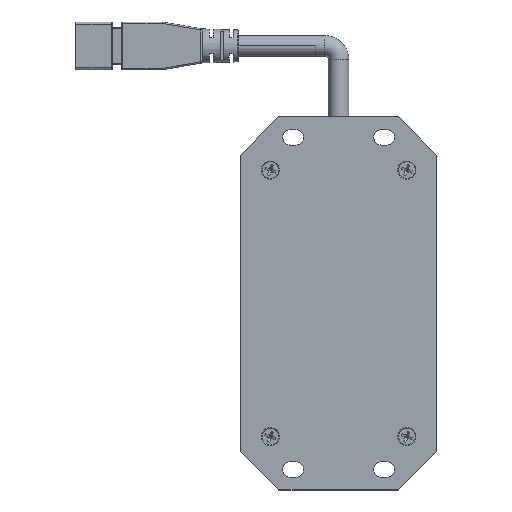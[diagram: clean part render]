
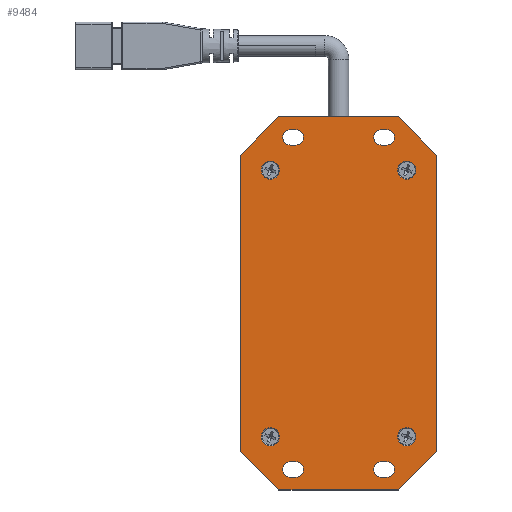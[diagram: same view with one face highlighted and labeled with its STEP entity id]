
A CAD part, top view. The second image highlights one B-rep face of the part: STEP entity #9484.
In plain terms, the highlighted planar face has unit normal (0, 0, 1).
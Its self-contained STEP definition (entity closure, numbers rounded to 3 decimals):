
#341=CARTESIAN_POINT('',(-15.,-29.3,3.));
#342=DIRECTION('',(0.,0.,-1.));
#343=DIRECTION('',(1.,0.,0.));
#344=AXIS2_PLACEMENT_3D('',#341,#342,#343);
#346=CARTESIAN_POINT('',(-15.,-29.3,3.));
#347=DIRECTION('',(0.,0.,-1.));
#348=DIRECTION('',(-1.,0.,0.));
#349=AXIS2_PLACEMENT_3D('',#346,#347,#348);
#351=CARTESIAN_POINT('',(15.,-29.3,3.));
#352=DIRECTION('',(0.,0.,-1.));
#353=DIRECTION('',(1.,0.,0.));
#354=AXIS2_PLACEMENT_3D('',#351,#352,#353);
#356=CARTESIAN_POINT('',(15.,-29.3,3.));
#357=DIRECTION('',(0.,0.,-1.));
#358=DIRECTION('',(-1.,0.,0.));
#359=AXIS2_PLACEMENT_3D('',#356,#357,#358);
#361=CARTESIAN_POINT('',(-15.,29.3,3.));
#362=DIRECTION('',(0.,0.,-1.));
#363=DIRECTION('',(-1.,0.,0.));
#364=AXIS2_PLACEMENT_3D('',#361,#362,#363);
#366=CARTESIAN_POINT('',(-15.,29.3,3.));
#367=DIRECTION('',(0.,0.,-1.));
#368=DIRECTION('',(1.,0.,0.));
#369=AXIS2_PLACEMENT_3D('',#366,#367,#368);
#371=CARTESIAN_POINT('',(15.,29.3,3.));
#372=DIRECTION('',(0.,0.,-1.));
#373=DIRECTION('',(-1.,0.,0.));
#374=AXIS2_PLACEMENT_3D('',#371,#372,#373);
#376=CARTESIAN_POINT('',(15.,29.3,3.));
#377=DIRECTION('',(0.,0.,-1.));
#378=DIRECTION('',(1.,0.,0.));
#379=AXIS2_PLACEMENT_3D('',#376,#377,#378);
#381=CARTESIAN_POINT('',(-9.4,36.5,3.));
#382=DIRECTION('',(0.,0.,-1.));
#383=DIRECTION('',(0.,1.,0.));
#384=AXIS2_PLACEMENT_3D('',#381,#382,#383);
#386=CARTESIAN_POINT('',(-10.6,36.5,3.));
#387=DIRECTION('',(0.,0.,-1.));
#388=DIRECTION('',(0.,-1.,0.));
#389=AXIS2_PLACEMENT_3D('',#386,#387,#388);
#391=CARTESIAN_POINT('',(10.6,36.5,3.));
#392=DIRECTION('',(0.,0.,-1.));
#393=DIRECTION('',(0.,1.,0.));
#394=AXIS2_PLACEMENT_3D('',#391,#392,#393);
#396=CARTESIAN_POINT('',(9.4,36.5,3.));
#397=DIRECTION('',(0.,0.,-1.));
#398=DIRECTION('',(0.,-1.,0.));
#399=AXIS2_PLACEMENT_3D('',#396,#397,#398);
#401=CARTESIAN_POINT('',(-9.4,-36.5,3.));
#402=DIRECTION('',(0.,0.,-1.));
#403=DIRECTION('',(0.,1.,0.));
#404=AXIS2_PLACEMENT_3D('',#401,#402,#403);
#406=CARTESIAN_POINT('',(-10.6,-36.5,3.));
#407=DIRECTION('',(0.,0.,-1.));
#408=DIRECTION('',(0.,-1.,0.));
#409=AXIS2_PLACEMENT_3D('',#406,#407,#408);
#411=CARTESIAN_POINT('',(10.6,-36.5,3.));
#412=DIRECTION('',(0.,0.,-1.));
#413=DIRECTION('',(0.,1.,0.));
#414=AXIS2_PLACEMENT_3D('',#411,#412,#413);
#416=CARTESIAN_POINT('',(9.4,-36.5,3.));
#417=DIRECTION('',(0.,0.,-1.));
#418=DIRECTION('',(0.,-1.,0.));
#419=AXIS2_PLACEMENT_3D('',#416,#417,#418);
#421=DIRECTION('',(-1.,0.,0.));
#422=VECTOR('',#421,26.2);
#423=CARTESIAN_POINT('',(13.1,41.,3.));
#424=LINE('',#423,#422);
#425=DIRECTION('',(-0.707,0.707,0.));
#426=VECTOR('',#425,11.879);
#427=CARTESIAN_POINT('',(21.5,32.6,3.));
#428=LINE('',#427,#426);
#429=DIRECTION('',(0.,1.,0.));
#430=VECTOR('',#429,65.2);
#431=CARTESIAN_POINT('',(21.5,-32.6,3.));
#432=LINE('',#431,#430);
#433=DIRECTION('',(0.707,0.707,0.));
#434=VECTOR('',#433,11.879);
#435=CARTESIAN_POINT('',(13.1,-41.,3.));
#436=LINE('',#435,#434);
#437=DIRECTION('',(1.,0.,0.));
#438=VECTOR('',#437,26.2);
#439=CARTESIAN_POINT('',(-13.1,-41.,3.));
#440=LINE('',#439,#438);
#441=DIRECTION('',(0.707,-0.707,0.));
#442=VECTOR('',#441,11.879);
#443=CARTESIAN_POINT('',(-21.5,-32.6,3.));
#444=LINE('',#443,#442);
#445=DIRECTION('',(0.,-1.,0.));
#446=VECTOR('',#445,65.2);
#447=CARTESIAN_POINT('',(-21.5,32.6,3.));
#448=LINE('',#447,#446);
#449=DIRECTION('',(-0.707,-0.707,0.));
#450=VECTOR('',#449,11.879);
#451=CARTESIAN_POINT('',(-13.1,41.,3.));
#452=LINE('',#451,#450);
#1477=DIRECTION('',(1.,0.,0.));
#1478=VECTOR('',#1477,1.2);
#1479=CARTESIAN_POINT('',(-10.6,34.8,3.));
#1480=LINE('',#1479,#1478);
#1599=DIRECTION('',(-1.,0.,0.));
#1600=VECTOR('',#1599,1.2);
#1601=CARTESIAN_POINT('',(-9.4,38.2,3.));
#1602=LINE('',#1601,#1600);
#1623=DIRECTION('',(-1.,0.,0.));
#1624=VECTOR('',#1623,1.2);
#1625=CARTESIAN_POINT('',(10.6,38.2,3.));
#1626=LINE('',#1625,#1624);
#1643=DIRECTION('',(1.,0.,0.));
#1644=VECTOR('',#1643,1.2);
#1645=CARTESIAN_POINT('',(9.4,34.8,3.));
#1646=LINE('',#1645,#1644);
#1659=DIRECTION('',(-1.,0.,0.));
#1660=VECTOR('',#1659,1.2);
#1661=CARTESIAN_POINT('',(-9.4,-34.8,3.));
#1662=LINE('',#1661,#1660);
#1675=DIRECTION('',(1.,0.,0.));
#1676=VECTOR('',#1675,1.2);
#1677=CARTESIAN_POINT('',(-10.6,-38.2,3.));
#1678=LINE('',#1677,#1676);
#1691=DIRECTION('',(-1.,0.,0.));
#1692=VECTOR('',#1691,1.2);
#1693=CARTESIAN_POINT('',(10.6,-34.8,3.));
#1694=LINE('',#1693,#1692);
#1707=DIRECTION('',(1.,0.,0.));
#1708=VECTOR('',#1707,1.2);
#1709=CARTESIAN_POINT('',(9.4,-38.2,3.));
#1710=LINE('',#1709,#1708);
#7037=CARTESIAN_POINT('',(21.5,-32.6,3.));
#7038=VERTEX_POINT('',#7037);
#7039=CARTESIAN_POINT('',(21.5,32.6,3.));
#7040=VERTEX_POINT('',#7039);
#7045=CARTESIAN_POINT('',(-13.1,-41.,3.));
#7046=VERTEX_POINT('',#7045);
#7047=CARTESIAN_POINT('',(13.1,-41.,3.));
#7048=VERTEX_POINT('',#7047);
#7051=CARTESIAN_POINT('',(-21.5,-32.6,3.));
#7052=VERTEX_POINT('',#7051);
#7055=CARTESIAN_POINT('',(-21.5,32.6,3.));
#7056=VERTEX_POINT('',#7055);
#7059=CARTESIAN_POINT('',(13.1,41.,3.));
#7060=VERTEX_POINT('',#7059);
#7061=CARTESIAN_POINT('',(-13.1,41.,3.));
#7062=VERTEX_POINT('',#7061);
#7063=CARTESIAN_POINT('',(10.6,-34.8,3.));
#7064=CARTESIAN_POINT('',(10.6,-38.2,3.));
#7065=VERTEX_POINT('',#7063);
#7066=VERTEX_POINT('',#7064);
#7067=CARTESIAN_POINT('',(9.4,-34.8,3.));
#7068=VERTEX_POINT('',#7067);
#7069=CARTESIAN_POINT('',(9.4,-38.2,3.));
#7070=VERTEX_POINT('',#7069);
#7071=CARTESIAN_POINT('',(-9.4,-34.8,3.));
#7072=CARTESIAN_POINT('',(-9.4,-38.2,3.));
#7073=VERTEX_POINT('',#7071);
#7074=VERTEX_POINT('',#7072);
#7075=CARTESIAN_POINT('',(-10.6,-34.8,3.));
#7076=VERTEX_POINT('',#7075);
#7077=CARTESIAN_POINT('',(-10.6,-38.2,3.));
#7078=VERTEX_POINT('',#7077);
#7079=CARTESIAN_POINT('',(10.6,38.2,3.));
#7080=CARTESIAN_POINT('',(10.6,34.8,3.));
#7081=VERTEX_POINT('',#7079);
#7082=VERTEX_POINT('',#7080);
#7083=CARTESIAN_POINT('',(9.4,38.2,3.));
#7084=VERTEX_POINT('',#7083);
#7085=CARTESIAN_POINT('',(9.4,34.8,3.));
#7086=VERTEX_POINT('',#7085);
#7087=CARTESIAN_POINT('',(-9.4,38.2,3.));
#7088=CARTESIAN_POINT('',(-9.4,34.8,3.));
#7089=VERTEX_POINT('',#7087);
#7090=VERTEX_POINT('',#7088);
#7091=CARTESIAN_POINT('',(-10.6,38.2,3.));
#7092=VERTEX_POINT('',#7091);
#7093=CARTESIAN_POINT('',(-10.6,34.8,3.));
#7094=VERTEX_POINT('',#7093);
#7095=CARTESIAN_POINT('',(17.,29.3,3.));
#7096=CARTESIAN_POINT('',(13.,29.3,3.));
#7097=VERTEX_POINT('',#7095);
#7098=VERTEX_POINT('',#7096);
#7099=CARTESIAN_POINT('',(-13.,29.3,3.));
#7100=CARTESIAN_POINT('',(-17.,29.3,3.));
#7101=VERTEX_POINT('',#7099);
#7102=VERTEX_POINT('',#7100);
#7103=CARTESIAN_POINT('',(13.,-29.3,3.));
#7104=CARTESIAN_POINT('',(17.,-29.3,3.));
#7105=VERTEX_POINT('',#7103);
#7106=VERTEX_POINT('',#7104);
#7107=CARTESIAN_POINT('',(-17.,-29.3,3.));
#7108=CARTESIAN_POINT('',(-13.,-29.3,3.));
#7109=VERTEX_POINT('',#7107);
#7110=VERTEX_POINT('',#7108);
#9399=CARTESIAN_POINT('',(0.,0.,3.));
#9400=DIRECTION('',(0.,0.,1.));
#9401=DIRECTION('',(1.,0.,0.));
#9402=AXIS2_PLACEMENT_3D('',#9399,#9400,#9401);
#9403=PLANE('',#9402);
#9405=ORIENTED_EDGE('',*,*,#9404,.F.);
#9407=ORIENTED_EDGE('',*,*,#9406,.F.);
#9409=ORIENTED_EDGE('',*,*,#9408,.F.);
#9411=ORIENTED_EDGE('',*,*,#9410,.F.);
#9413=ORIENTED_EDGE('',*,*,#9412,.F.);
#9415=ORIENTED_EDGE('',*,*,#9414,.F.);
#9417=ORIENTED_EDGE('',*,*,#9416,.F.);
#9419=ORIENTED_EDGE('',*,*,#9418,.F.);
#9420=EDGE_LOOP('',(#9405,#9407,#9409,#9411,#9413,#9415,#9417,#9419));
#9421=FACE_OUTER_BOUND('',#9420,.F.);
#9423=ORIENTED_EDGE('',*,*,#9422,.F.);
#9425=ORIENTED_EDGE('',*,*,#9424,.F.);
#9426=EDGE_LOOP('',(#9423,#9425));
#9427=FACE_BOUND('',#9426,.F.);
#9428=ORIENTED_EDGE('',*,*,#9392,.F.);
#9429=ORIENTED_EDGE('',*,*,#9378,.F.);
#9430=EDGE_LOOP('',(#9428,#9429));
#9431=FACE_BOUND('',#9430,.F.);
#9433=ORIENTED_EDGE('',*,*,#9432,.F.);
#9435=ORIENTED_EDGE('',*,*,#9434,.F.);
#9436=EDGE_LOOP('',(#9433,#9435));
#9437=FACE_BOUND('',#9436,.F.);
#9439=ORIENTED_EDGE('',*,*,#9438,.T.);
#9441=ORIENTED_EDGE('',*,*,#9440,.F.);
#9443=ORIENTED_EDGE('',*,*,#9442,.T.);
#9445=ORIENTED_EDGE('',*,*,#9444,.F.);
#9446=EDGE_LOOP('',(#9439,#9441,#9443,#9445));
#9447=FACE_BOUND('',#9446,.F.);
#9449=ORIENTED_EDGE('',*,*,#9448,.T.);
#9451=ORIENTED_EDGE('',*,*,#9450,.F.);
#9453=ORIENTED_EDGE('',*,*,#9452,.T.);
#9455=ORIENTED_EDGE('',*,*,#9454,.F.);
#9456=EDGE_LOOP('',(#9449,#9451,#9453,#9455));
#9457=FACE_BOUND('',#9456,.F.);
#9459=ORIENTED_EDGE('',*,*,#9458,.T.);
#9461=ORIENTED_EDGE('',*,*,#9460,.F.);
#9463=ORIENTED_EDGE('',*,*,#9462,.T.);
#9465=ORIENTED_EDGE('',*,*,#9464,.F.);
#9466=EDGE_LOOP('',(#9459,#9461,#9463,#9465));
#9467=FACE_BOUND('',#9466,.F.);
#9469=ORIENTED_EDGE('',*,*,#9468,.T.);
#9471=ORIENTED_EDGE('',*,*,#9470,.F.);
#9473=ORIENTED_EDGE('',*,*,#9472,.T.);
#9475=ORIENTED_EDGE('',*,*,#9474,.F.);
#9476=EDGE_LOOP('',(#9469,#9471,#9473,#9475));
#9477=FACE_BOUND('',#9476,.F.);
#9479=ORIENTED_EDGE('',*,*,#9478,.F.);
#9481=ORIENTED_EDGE('',*,*,#9480,.F.);
#9482=EDGE_LOOP('',(#9479,#9481));
#9483=FACE_BOUND('',#9482,.F.);
#9484=ADVANCED_FACE('',(#9421,#9427,#9431,#9437,#9447,#9457,#9467,#9477,#9483),
#9403,.T.);
#345=CIRCLE('',#344,2.);
#350=CIRCLE('',#349,2.);
#355=CIRCLE('',#354,2.);
#360=CIRCLE('',#359,2.);
#365=CIRCLE('',#364,2.);
#370=CIRCLE('',#369,2.);
#375=CIRCLE('',#374,2.);
#380=CIRCLE('',#379,2.);
#385=CIRCLE('',#384,1.7);
#390=CIRCLE('',#389,1.7);
#395=CIRCLE('',#394,1.7);
#400=CIRCLE('',#399,1.7);
#405=CIRCLE('',#404,1.7);
#410=CIRCLE('',#409,1.7);
#415=CIRCLE('',#414,1.7);
#420=CIRCLE('',#419,1.7);
#9378=EDGE_CURVE('',#7101,#7102,#370,.T.);
#9392=EDGE_CURVE('',#7102,#7101,#365,.T.);
#9404=EDGE_CURVE('',#7060,#7062,#424,.T.);
#9406=EDGE_CURVE('',#7040,#7060,#428,.T.);
#9408=EDGE_CURVE('',#7038,#7040,#432,.T.);
#9410=EDGE_CURVE('',#7048,#7038,#436,.T.);
#9412=EDGE_CURVE('',#7046,#7048,#440,.T.);
#9414=EDGE_CURVE('',#7052,#7046,#444,.T.);
#9416=EDGE_CURVE('',#7056,#7052,#448,.T.);
#9418=EDGE_CURVE('',#7062,#7056,#452,.T.);
#9422=EDGE_CURVE('',#7106,#7105,#355,.T.);
#9424=EDGE_CURVE('',#7105,#7106,#360,.T.);
#9432=EDGE_CURVE('',#7098,#7097,#375,.T.);
#9434=EDGE_CURVE('',#7097,#7098,#380,.T.);
#9438=EDGE_CURVE('',#7094,#7090,#1480,.T.);
#9440=EDGE_CURVE('',#7089,#7090,#385,.T.);
#9442=EDGE_CURVE('',#7089,#7092,#1602,.T.);
#9444=EDGE_CURVE('',#7094,#7092,#390,.T.);
#9448=EDGE_CURVE('',#7086,#7082,#1646,.T.);
#9450=EDGE_CURVE('',#7081,#7082,#395,.T.);
#9452=EDGE_CURVE('',#7081,#7084,#1626,.T.);
#9454=EDGE_CURVE('',#7086,#7084,#400,.T.);
#9458=EDGE_CURVE('',#7078,#7074,#1678,.T.);
#9460=EDGE_CURVE('',#7073,#7074,#405,.T.);
#9462=EDGE_CURVE('',#7073,#7076,#1662,.T.);
#9464=EDGE_CURVE('',#7078,#7076,#410,.T.);
#9468=EDGE_CURVE('',#7070,#7066,#1710,.T.);
#9470=EDGE_CURVE('',#7065,#7066,#415,.T.);
#9472=EDGE_CURVE('',#7065,#7068,#1694,.T.);
#9474=EDGE_CURVE('',#7070,#7068,#420,.T.);
#9478=EDGE_CURVE('',#7110,#7109,#345,.T.);
#9480=EDGE_CURVE('',#7109,#7110,#350,.T.);
